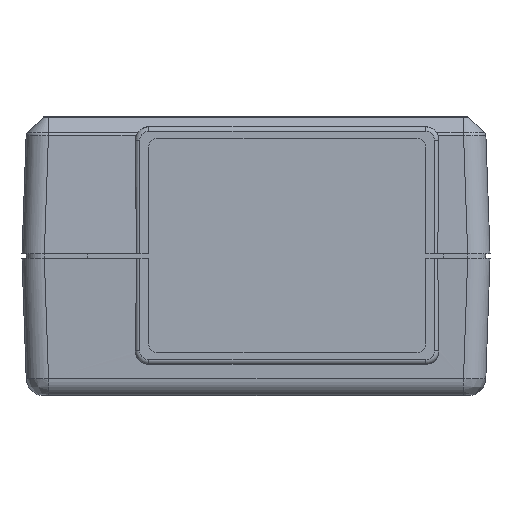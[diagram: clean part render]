
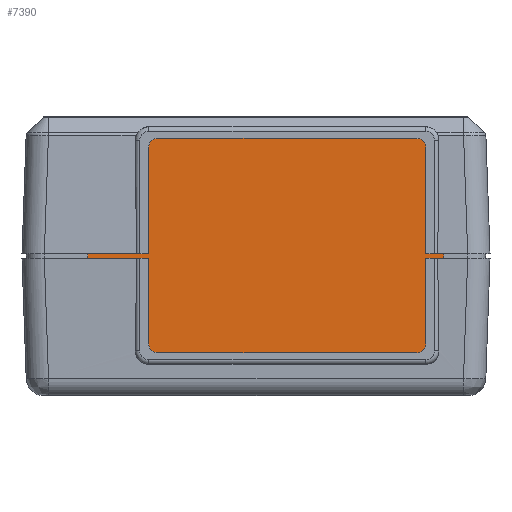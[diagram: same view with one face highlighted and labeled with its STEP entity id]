
A CAD part, left-side view. The second image highlights one B-rep face of the part: STEP entity #7390.
In plain terms, the highlighted planar face has unit normal (-1, 0, 0).
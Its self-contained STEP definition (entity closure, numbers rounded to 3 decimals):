
#258=DIRECTION('',(0.,1.,0.));
#259=VECTOR('',#258,6.84);
#260=CARTESIAN_POINT('',(-58.695,12.01,10.185));
#261=LINE('',#260,#259);
#292=DIRECTION('',(0.,-1.,0.));
#293=VECTOR('',#292,6.84);
#294=CARTESIAN_POINT('',(-58.695,18.85,10.685));
#295=LINE('',#294,#293);
#1697=DIRECTION('',(0.,-1.,0.));
#1698=VECTOR('',#1697,2.031);
#1699=CARTESIAN_POINT('',(-58.695,-18.99,10.685));
#1700=LINE('',#1699,#1698);
#1732=DIRECTION('',(0.,0.,-1.));
#1733=VECTOR('',#1732,0.5);
#1734=CARTESIAN_POINT('',(-58.695,-21.021,10.685));
#1735=LINE('',#1734,#1733);
#1947=DIRECTION('',(0.,1.,0.));
#1948=VECTOR('',#1947,2.031);
#1949=CARTESIAN_POINT('',(-58.695,-21.021,10.185));
#1950=LINE('',#1949,#1948);
#2379=DIRECTION('',(0.,0.,1.));
#2380=VECTOR('',#2379,9.585);
#2381=CARTESIAN_POINT('',(-58.695,12.01,0.6));
#2382=LINE('',#2381,#2380);
#2387=CARTESIAN_POINT('',(-58.695,11.01,22.6));
#2388=DIRECTION('',(-1.,0.,0.));
#2389=DIRECTION('',(0.,0.,1.));
#2390=AXIS2_PLACEMENT_3D('',#2387,#2388,#2389);
#2392=DIRECTION('',(0.,1.,0.));
#2393=VECTOR('',#2392,29.);
#2394=CARTESIAN_POINT('',(-58.695,-17.99,23.6));
#2395=LINE('',#2394,#2393);
#2396=CARTESIAN_POINT('',(-58.695,-17.99,22.6));
#2397=DIRECTION('',(-1.,0.,0.));
#2398=DIRECTION('',(0.,-1.,0.));
#2399=AXIS2_PLACEMENT_3D('',#2396,#2397,#2398);
#2401=CARTESIAN_POINT('',(-58.695,-17.99,0.6));
#2402=DIRECTION('',(-1.,0.,0.));
#2403=DIRECTION('',(0.,0.,-1.));
#2404=AXIS2_PLACEMENT_3D('',#2401,#2402,#2403);
#2406=CARTESIAN_POINT('',(-58.695,11.01,0.6));
#2407=DIRECTION('',(-1.,0.,0.));
#2408=DIRECTION('',(0.,1.,0.));
#2409=AXIS2_PLACEMENT_3D('',#2406,#2407,#2408);
#2411=DIRECTION('',(0.,0.,1.));
#2412=VECTOR('',#2411,11.915);
#2413=CARTESIAN_POINT('',(-58.695,12.01,10.685));
#2414=LINE('',#2413,#2412);
#2527=DIRECTION('',(0.,0.,-1.));
#2528=VECTOR('',#2527,11.915);
#2529=CARTESIAN_POINT('',(-58.695,-18.99,22.6));
#2530=LINE('',#2529,#2528);
#2555=DIRECTION('',(0.,0.,-1.));
#2556=VECTOR('',#2555,9.585);
#2557=CARTESIAN_POINT('',(-58.695,-18.99,10.185));
#2558=LINE('',#2557,#2556);
#2571=DIRECTION('',(0.,1.,0.));
#2572=VECTOR('',#2571,29.);
#2573=CARTESIAN_POINT('',(-58.695,-17.99,-0.4));
#2574=LINE('',#2573,#2572);
#2583=DIRECTION('',(0.,0.,1.));
#2584=VECTOR('',#2583,0.5);
#2585=CARTESIAN_POINT('',(-58.695,18.85,10.185));
#2586=LINE('',#2585,#2584);
#3402=CARTESIAN_POINT('',(-58.695,-18.99,10.685));
#3404=VERTEX_POINT('',#3402);
#3414=CARTESIAN_POINT('',(-58.695,-17.99,23.6));
#3415=CARTESIAN_POINT('',(-58.695,11.01,23.6));
#3416=VERTEX_POINT('',#3414);
#3417=VERTEX_POINT('',#3415);
#3430=CARTESIAN_POINT('',(-58.695,12.01,0.6));
#3431=CARTESIAN_POINT('',(-58.695,11.01,-0.4));
#3432=VERTEX_POINT('',#3430);
#3433=VERTEX_POINT('',#3431);
#3496=CARTESIAN_POINT('',(-58.695,12.01,10.185));
#3498=VERTEX_POINT('',#3496);
#3525=CARTESIAN_POINT('',(-58.695,-18.99,0.6));
#3527=VERTEX_POINT('',#3525);
#3573=CARTESIAN_POINT('',(-58.695,-18.99,22.6));
#3574=VERTEX_POINT('',#3573);
#3620=CARTESIAN_POINT('',(-58.695,18.85,10.185));
#3621=VERTEX_POINT('',#3620);
#3690=CARTESIAN_POINT('',(-58.695,-17.99,-0.4));
#3692=VERTEX_POINT('',#3690);
#3940=CARTESIAN_POINT('',(-58.695,-21.021,10.185));
#3941=CARTESIAN_POINT('',(-58.695,-18.99,10.185));
#3942=VERTEX_POINT('',#3940);
#3943=VERTEX_POINT('',#3941);
#3966=CARTESIAN_POINT('',(-58.695,12.01,22.6));
#3968=VERTEX_POINT('',#3966);
#4095=CARTESIAN_POINT('',(-58.695,18.85,10.685));
#4096=VERTEX_POINT('',#4095);
#4151=CARTESIAN_POINT('',(-58.695,-21.021,10.685));
#4152=VERTEX_POINT('',#4151);
#4153=CARTESIAN_POINT('',(-58.695,12.01,10.685));
#4154=VERTEX_POINT('',#4153);
#7357=CARTESIAN_POINT('',(-58.695,0.,0.));
#7358=DIRECTION('',(-1.,0.,0.));
#7359=DIRECTION('',(0.,-1.,0.));
#7360=AXIS2_PLACEMENT_3D('',#7357,#7358,#7359);
#7361=PLANE('',#7360);
#7363=ORIENTED_EDGE('',*,*,#7362,.T.);
#7365=ORIENTED_EDGE('',*,*,#7364,.F.);
#7367=ORIENTED_EDGE('',*,*,#7366,.F.);
#7369=ORIENTED_EDGE('',*,*,#7368,.F.);
#7371=ORIENTED_EDGE('',*,*,#7370,.T.);
#7372=ORIENTED_EDGE('',*,*,#6513,.T.);
#7373=ORIENTED_EDGE('',*,*,#6551,.T.);
#7374=ORIENTED_EDGE('',*,*,#6789,.T.);
#7376=ORIENTED_EDGE('',*,*,#7375,.T.);
#7378=ORIENTED_EDGE('',*,*,#7377,.F.);
#7380=ORIENTED_EDGE('',*,*,#7379,.T.);
#7382=ORIENTED_EDGE('',*,*,#7381,.F.);
#7383=ORIENTED_EDGE('',*,*,#7348,.T.);
#7384=ORIENTED_EDGE('',*,*,#4506,.T.);
#7386=ORIENTED_EDGE('',*,*,#7385,.T.);
#7387=ORIENTED_EDGE('',*,*,#4579,.T.);
#7388=EDGE_LOOP('',(#7363,#7365,#7367,#7369,#7371,#7372,#7373,#7374,#7376,#7378,
#7380,#7382,#7383,#7384,#7386,#7387));
#7389=FACE_OUTER_BOUND('',#7388,.F.);
#7390=ADVANCED_FACE('',(#7389),#7361,.T.);
#2391=CIRCLE('',#2390,1.);
#2400=CIRCLE('',#2399,1.);
#2405=CIRCLE('',#2404,1.);
#2410=CIRCLE('',#2409,1.);
#4506=EDGE_CURVE('',#3498,#3621,#261,.T.);
#4579=EDGE_CURVE('',#4096,#4154,#295,.T.);
#6513=EDGE_CURVE('',#3404,#4152,#1700,.T.);
#6551=EDGE_CURVE('',#4152,#3942,#1735,.T.);
#6789=EDGE_CURVE('',#3942,#3943,#1950,.T.);
#7348=EDGE_CURVE('',#3432,#3498,#2382,.T.);
#7362=EDGE_CURVE('',#4154,#3968,#2414,.T.);
#7364=EDGE_CURVE('',#3417,#3968,#2391,.T.);
#7366=EDGE_CURVE('',#3416,#3417,#2395,.T.);
#7368=EDGE_CURVE('',#3574,#3416,#2400,.T.);
#7370=EDGE_CURVE('',#3574,#3404,#2530,.T.);
#7375=EDGE_CURVE('',#3943,#3527,#2558,.T.);
#7377=EDGE_CURVE('',#3692,#3527,#2405,.T.);
#7379=EDGE_CURVE('',#3692,#3433,#2574,.T.);
#7381=EDGE_CURVE('',#3432,#3433,#2410,.T.);
#7385=EDGE_CURVE('',#3621,#4096,#2586,.T.);
